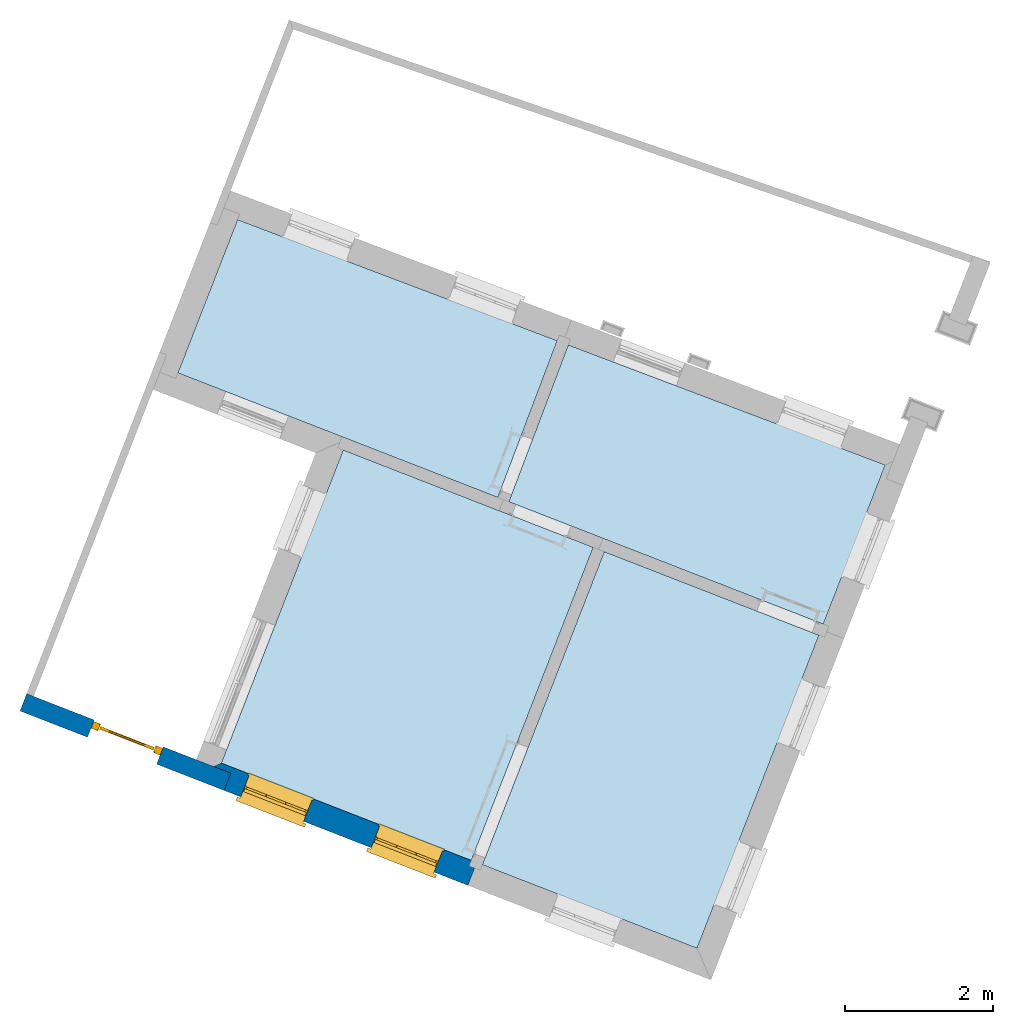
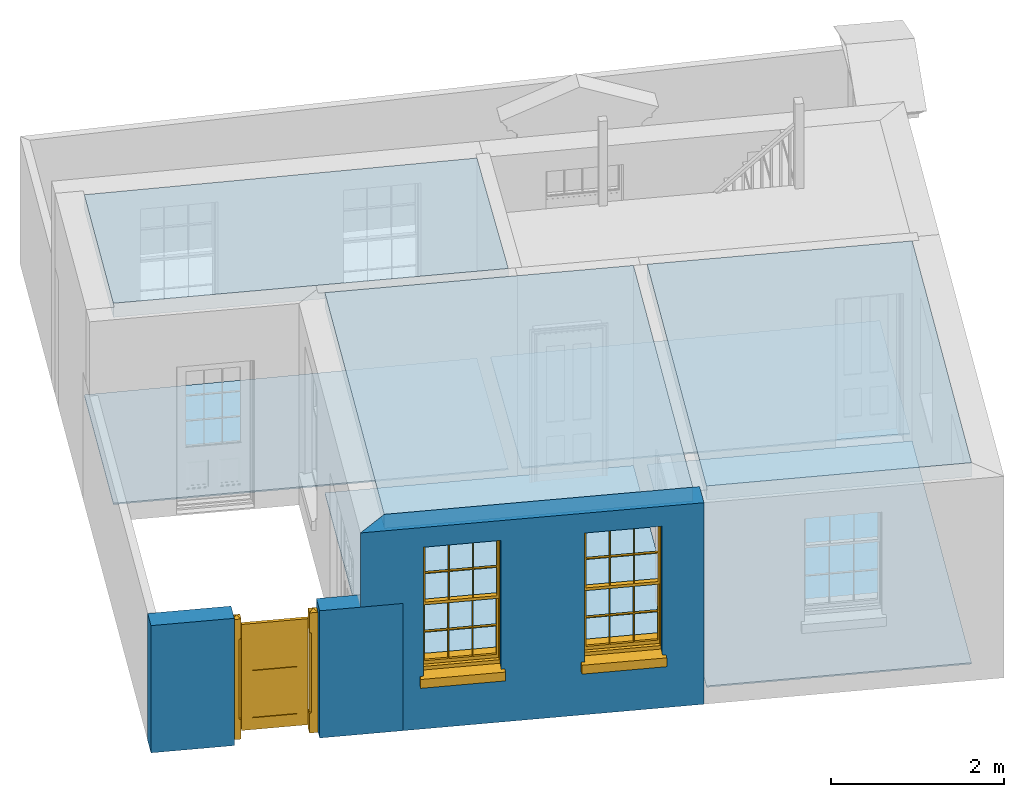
# One storey, part 1 of 10: 7 slabs, 2 walls, 2 windows, 1 door, 3 openings.
"""IFC4 building model written with IfcOpenShell, lengths in metres."""

from ifc_helpers import new_model, si_unit, frame, origin, origin_with_axes, place, context, subcontext, project, spatial, polyline, outline, extrude, faceted_brep, source, transform, mapped, material, layer, layer_set, layer_usage, type_object, type_shapes, element, fill, save


model = new_model("IFC4")

# Units and contexts
model_context = context("Model", 3, world=origin_with_axes())
body_context = subcontext(model_context, "Body", "Model", "MODEL_VIEW")
ifc_project = project(units=[si_unit("PLANEANGLEUNIT", "RADIAN"), si_unit("MASSUNIT", "GRAM", prefix="KILO"), si_unit("FORCEUNIT", "NEWTON", prefix="KILO"), si_unit("LENGTHUNIT", "METRE"), si_unit("AREAUNIT", "SQUARE_METRE"), si_unit("VOLUMEUNIT", "CUBIC_METRE")], contexts=[model_context, model_context])

# Sites, building, storey
site_1_placement = place(None, origin_with_axes())
site_1 = spatial("IfcSite", under=ifc_project, at=site_1_placement, Name="Tamar")
site_2_placement = place(site_1_placement, origin_with_axes())
site_2 = spatial("IfcSite", under=site_1, at=site_2_placement, Name="Site plot-8", CompositionType="ELEMENT")
building_placement = place(None, origin_with_axes())
building = spatial("IfcBuilding", under=site_2, at=building_placement, Name="Building plot-8", CompositionType="ELEMENT")
storey_placement = place(None, frame((0.0, 0.0, 26.0), z_axis=(0.0, 0.0, 1.0), x_axis=(1.0, 0.0, 0.0)))
storey = spatial("IfcBuildingStorey", under=building, at=storey_placement, Name="plot-8 0", CompositionType="ELEMENT", Elevation=26.0)

# Slabs
slab_1_placement = place(storey_placement, frame((222.381477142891, 304.99835360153, 2.65)))
element("IfcSlab", 1, at=slab_1_placement, inside=storey, Name="My Slab", ObjectType="Slab", PredefinedType="FLOOR", context=body_context, shape_type="SweptSolid", body=[
    extrude(outline(polyline([(0.0, 0.0), (3.37150952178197, -1.31265008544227), (5.01553914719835, 2.90999965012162), (1.64402962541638, 4.22264973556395), (0.0, 0.0)])), origin_with_axes(), (0.0, 0.0, 1.0), 0.2),
])
slab_2_placement = place(storey_placement, frame((222.381477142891, 304.99835360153, 0.0)))
element("IfcSlab", 2, at=slab_2_placement, inside=storey, Name="My Slab", ObjectType="Slab", PredefinedType="FLOOR", context=body_context, shape_type="SweptSolid", body=[
    extrude(outline(polyline([(0.0, 0.0), (3.37150952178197, -1.31265008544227), (5.01553914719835, 2.90999965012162), (1.64402962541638, 4.22264973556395), (0.0, 0.0)])), origin_with_axes(), (0.0, 0.0, 1.0), 0.02),
])
slab_3_placement = place(storey_placement, frame((221.795843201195, 310.260790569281, 2.65)))
element("IfcSlab", 3, at=slab_3_placement, inside=storey, Name="My Slab", ObjectType="Slab", PredefinedType="FLOOR", context=body_context, shape_type="SweptSolid", body=[
    extrude(outline(polyline([(0.0, 0.0), (4.31451663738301, -1.67979671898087), (5.11512416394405, 0.433972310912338), (0.804608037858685, 2.06661599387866), (0.0, 0.0)])), origin_with_axes(), (0.0, 0.0, 1.0), 0.2),
])
slab_4_placement = place(storey_placement, frame((221.795843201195, 310.260790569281, 0.0)))
element("IfcSlab", 4, at=slab_4_placement, inside=storey, Name="My Slab", ObjectType="Slab", PredefinedType="FLOOR", context=body_context, shape_type="SweptSolid", body=[
    extrude(outline(polyline([(0.0, 0.0), (4.31451663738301, -1.67979671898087), (5.11512416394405, 0.433972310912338), (0.804608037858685, 2.06661599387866), (0.0, 0.0)])), origin_with_axes(), (0.0, 0.0, 1.0), 0.02),
])
slab_5_placement = place(storey_placement, frame((226.259464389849, 308.522942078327, 0.0)))
element("IfcSlab", 5, at=slab_5_placement, inside=storey, Name="My Slab", ObjectType="Slab", PredefinedType="FLOOR", context=body_context, shape_type="SweptSolid", body=[
    extrude(outline(polyline([(0.0, 0.0), (4.23998719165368, -1.65077972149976), (5.07583281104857, 0.496069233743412), (0.801129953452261, 2.1151483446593), (0.0, 0.0)])), origin_with_axes(), (0.0, 0.0, 1.0), 0.02),
])
slab_6_placement = place(storey_placement, frame((225.902084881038, 303.627654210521, 2.65)))
element("IfcSlab", 6, at=slab_6_placement, inside=storey, Name="My Slab", ObjectType="Slab", PredefinedType="FLOOR", context=body_context, shape_type="SweptSolid", body=[
    extrude(outline(polyline([(0.0, 0.0), (2.89528776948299, -1.12723980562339), (4.53931739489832, 3.0954099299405), (1.64402962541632, 4.22264973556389), (0.0, 0.0)])), origin_with_axes(), (0.0, 0.0, 1.0), 0.2),
])
slab_7_placement = place(storey_placement, frame((225.902084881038, 303.627654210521, 0.0)))
element("IfcSlab", 7, at=slab_7_placement, inside=storey, Name="My Slab", ObjectType="Slab", PredefinedType="FLOOR", context=body_context, shape_type="SweptSolid", body=[
    extrude(outline(polyline([(0.0, 0.0), (2.89528776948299, -1.12723980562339), (4.53931739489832, 3.0954099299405), (1.64402962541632, 4.22264973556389), (0.0, 0.0)])), origin_with_axes(), (0.0, 0.0, 1.0), 0.02),
])

# Wall, openings, windows
ifc_material_1 = material(Name="Masonry")
ifc_layer_1 = layer(ifc_material_1, 0.33, ventilated=False)
ifc_layer_set_1 = layer_set([ifc_layer_1], Name="exterior_0.08_0.25")
ifc_layer_usage_1 = layer_usage(ifc_layer_set_1, "AXIS2", "POSITIVE", -0.25)
wall_type_1 = type_object("IfcWallType", Name="exterior_0.08_0.25", PredefinedType="SOLIDWALL", material=ifc_layer_set_1)
wall_1_placement = place(storey_placement, frame((222.277903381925, 304.952829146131, 0.0), z_axis=(0.0, 0.0, 1.0), x_axis=(0.931863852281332, -0.36280815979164, 0.0)))
wall_1 = element("IfcWall", 8, at=wall_1_placement, inside=storey, type_object=wall_type_1, material=ifc_layer_usage_1, Name="exterior", context=body_context, shape_type="SweptSolid", body=[
    extrude(outline(polyline([(0.0800000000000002, 0.0799999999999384), (-0.249999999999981, -0.250000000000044), (3.77802801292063, -0.250000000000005), (3.77802801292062, 0.0800000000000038), (0.0800000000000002, 0.0799999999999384)])), origin_with_axes(), (0.0, 0.0, 1.0), 2.85),
])
opening_1_placement = place(wall_1_placement, frame((0.489507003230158, 0.0, 0.75)))
opening_1 = element("IfcOpeningElement", 9, at=opening_1_placement, cuts=wall_1, Name="My Opening", ObjectType="Opening", context=body_context, shape_type="SweptSolid", body=[
    extrude(outline(polyline([(0.0, -0.270000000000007), (0.910000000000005, -0.270000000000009), (0.90999999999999, 1.09999999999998), (-1.51545442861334e-14, 1.09999999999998), (0.0, -0.270000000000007)])), origin_with_axes(), (0.0, 0.0, 1.0), 1.82),
])
opening_2_placement = place(wall_1_placement, frame((2.37852100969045, 0.0, 0.75)))
opening_2 = element("IfcOpeningElement", 10, at=opening_2_placement, cuts=wall_1, Name="My Opening", ObjectType="Opening", context=body_context, shape_type="SweptSolid", body=[
    extrude(outline(polyline([(0.0, -0.270000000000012), (0.910000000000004, -0.270000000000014), (0.909999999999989, 1.09999999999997), (-1.55431223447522e-14, 1.09999999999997), (0.0, -0.270000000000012)])), origin_with_axes(), (0.0, 0.0, 1.0), 1.82),
])
window_type = type_object("IfcWindowType", Name="sash_big", PartitioningType="DOUBLE_PANEL_HORIZONTAL", PredefinedType="NOTDEFINED")
shared_shape_1 = source(origin(), body_context, "Body", "Brep", [
    faceted_brep([(0.033125, 0.145, 0.975209), (0.01, 0.145, 0.975209), (0.033125, 0.145, 1.376042), (0.876875, 0.145, 0.975209), (0.876875, 0.145, 1.376042), (0.9, 0.145, 0.975209), (0.876875, 0.145, 1.386042), (0.876875, 0.145, 1.786875), (0.9, 0.145, 1.81), (0.033125, 0.145, 1.786875), (0.033125, 0.145, 1.386042), (0.01, 0.145, 1.81), (0.876875, 0.115, 1.376042), (0.876875, 0.115, 0.975209), (0.9, 0.115, 0.937083), (0.033125, 0.115, 1.786875), (0.01, 0.115, 1.81), (0.033125, 0.115, 1.386042), (0.01, 0.115, 0.937083), (0.033125, 0.115, 0.975209), (0.033125, 0.115, 1.376042), (0.876875, 0.115, 1.786875), (0.876875, 0.115, 1.386042), (0.9, 0.115, 1.81), (0.033125, 0.145, 0.937083), (0.01, 0.145, 0.937083), (0.033125, 0.145, 0.53625), (0.876875, 0.145, 0.937083), (0.876875, 0.145, 0.53625), (0.9, 0.145, 0.937083), (0.876875, 0.145, 0.52625), (0.876875, 0.145, 0.125417), (0.9, 0.145, 0.077167), (0.033125, 0.145, 0.125417), (0.033125, 0.145, 0.52625), (0.01, 0.145, 0.077167), (-0.0425, 0.0, 0.01), (-0.0425, -0.05, 0.001667), (0.0, 0.0, 0.01), (0.9525, 0.0, 0.01), (0.91, 0.0, 0.01), (0.9525, -0.05, 0.001667), (-0.02, 0.33, 0.077167), (0.0, 0.33, 0.077167), (-0.02, 0.36, 0.077167), (0.0, 0.19, 0.077167), (0.01, 0.19, 0.077167), (0.91, 0.19, 0.077167), (0.91, 0.33, 0.077167), (0.9, 0.19, 0.077167), (0.93, 0.33, 0.077167), (0.93, 0.36, 0.077167), (0.01, 0.175, 0.975209), (0.9, 0.175, 0.975209), (0.876875, 0.175, 0.125417), (0.876875, 0.175, 0.52625), (0.9, 0.175, 0.077167), (0.876875, 0.175, 0.53625), (0.876875, 0.175, 0.937083), (0.033125, 0.175, 0.125417), (0.01, 0.175, 0.077167), (0.033125, 0.175, 0.52625), (0.033125, 0.175, 0.937083), (0.033125, 0.175, 0.53625), (-0.02, 0.33, 0.052167), (-0.02, 0.36, 0.052167), (0.93, 0.36, 0.052167), (0.93, 0.33, 0.052167), (0.91, 0.33, 0.052167), (0.0, 0.33, 0.052167), (0.91, 0.1, 0.026667), (0.0, 0.1, 0.026667), (-0.0425, -0.05, -0.123333), (0.9525, -0.05, -0.123333), (-0.0425, 0.0, -0.123333), (0.9525, 0.0, -0.123333), (0.01, 0.19, 1.81), (0.9, 0.19, 1.81), (0.0, 0.19, 1.82), (0.91, 0.19, 1.82), (0.01, 0.1, 0.077167), (0.9, 0.1, 0.077167), (0.592292, 0.145, 0.125417), (0.592292, 0.175, 0.125417), (0.317708, 0.175, 0.125417), (0.317708, 0.145, 0.125417), (0.592292, 0.145, 0.53625), (0.317708, 0.145, 0.53625), (0.317708, 0.145, 0.52625), (0.592292, 0.145, 0.52625), (0.592292, 0.175, 0.53625), (0.317708, 0.175, 0.53625), (0.592292, 0.115, 1.386042), (0.592292, 0.145, 1.386042), (0.317708, 0.145, 1.386042), (0.317708, 0.115, 1.386042), (0.317708, 0.115, 1.376042), (0.592292, 0.115, 1.376042), (0.317708, 0.145, 1.376042), (0.592292, 0.145, 1.376042), (0.602292, 0.115, 1.376042), (0.592292, 0.115, 0.975209), (0.602292, 0.115, 0.975209), (0.602292, 0.145, 0.975209), (0.592292, 0.145, 0.975209), (0.602292, 0.145, 1.376042), (0.602292, 0.175, 0.53625), (0.602292, 0.145, 0.53625), (0.317708, 0.175, 0.52625), (0.307708, 0.175, 0.125417), (0.307708, 0.175, 0.52625), (0.602292, 0.175, 0.52625), (0.602292, 0.175, 0.125417), (0.592292, 0.175, 0.52625), (0.307708, 0.175, 0.53625), (0.317708, 0.175, 0.937083), (0.307708, 0.175, 0.937083), (0.602292, 0.175, 0.937083), (0.592292, 0.175, 0.937083), (0.307708, 0.145, 0.52625), (0.307708, 0.145, 0.125417), (0.307708, 0.145, 0.53625), (0.307708, 0.145, 0.937083), (0.592292, 0.145, 0.937083), (0.317708, 0.145, 0.937083), (0.602292, 0.145, 0.937083), (0.602292, 0.145, 0.52625), (0.602292, 0.145, 0.125417), (0.307708, 0.115, 1.386042), (0.307708, 0.115, 1.376042), (0.307708, 0.115, 0.975209), (0.317708, 0.115, 0.975209), (0.317708, 0.115, 1.786875), (0.307708, 0.115, 1.786875), (0.602292, 0.115, 1.786875), (0.592292, 0.115, 1.786875), (0.602292, 0.115, 1.386042), (0.602292, 0.145, 1.386042), (0.307708, 0.145, 1.386042), (0.307708, 0.145, 1.786875), (0.317708, 0.145, 1.786875), (0.592292, 0.145, 1.786875), (0.602292, 0.145, 1.786875), (0.307708, 0.145, 1.376042), (0.317708, 0.145, 0.975209), (0.307708, 0.145, 0.975209), (0.91, 0.1, 1.82), (0.9, 0.1, 1.81), (0.01, 0.1, 1.81), (0.0, 0.1, 1.82), (0.91, 0.0, 0.0), (0.0, 0.0, 0.0), (0.91, 0.33, 0.0), (0.0, 0.33, 0.0)], [[[0, 1, 2]], [[3, 4, 5]], [[6, 7, 8]], [[9, 10, 11]], [[12, 13, 14]], [[15, 16, 17]], [[18, 19, 20]], [[21, 22, 23]], [[24, 25, 26]], [[27, 28, 29]], [[30, 31, 32]], [[33, 34, 35]], [[14, 27, 29]], [[25, 24, 18]], [[36, 37, 38]], [[39, 40, 41]], [[42, 43, 44]], [[45, 46, 43]], [[47, 48, 49]], [[50, 51, 48]], [[1, 0, 52]], [[5, 53, 3]], [[54, 55, 56]], [[57, 58, 53]], [[59, 60, 61]], [[62, 63, 52]], [[48, 43, 46, 49]], [[51, 44, 43, 48]], [[64, 42, 44, 65]], [[65, 44, 51, 66]], [[66, 51, 50, 67]], [[65, 66, 68, 69]], [[60, 56, 49, 46]], [[70, 71, 38, 40]], [[37, 41, 40, 38]], [[37, 72, 73, 41]], [[74, 75, 73, 72]], [[8, 11, 76, 77]], [[76, 78, 79, 77]], [[32, 35, 80, 81]], [[81, 80, 71, 70]], [[82, 83, 84, 85]], [[86, 87, 88, 89]], [[86, 90, 91, 87]], [[92, 93, 94, 95]], [[92, 95, 96, 97]], [[96, 98, 99, 97]], [[100, 97, 101, 102]], [[103, 104, 99, 105]], [[97, 99, 104, 101]], [[102, 103, 105, 100]], [[28, 57, 106, 107]], [[108, 84, 109, 110]], [[111, 112, 83, 113]], [[114, 110, 61, 63]], [[90, 113, 108, 91]], [[115, 91, 114, 116]], [[117, 106, 90, 118]], [[111, 106, 57, 55]], [[119, 110, 109, 120]], [[34, 61, 110, 119]], [[89, 113, 83, 82]], [[88, 108, 113, 89]], [[85, 84, 108, 88]], [[121, 114, 63, 26]], [[122, 116, 114, 121]], [[123, 118, 90, 86]], [[87, 91, 115, 124]], [[107, 106, 117, 125]], [[126, 111, 55, 30]], [[127, 112, 111, 126]], [[126, 30, 28, 107]], [[88, 119, 120, 85]], [[126, 89, 82, 127]], [[125, 123, 86, 107]], [[121, 26, 34, 119]], [[124, 122, 121, 87]], [[128, 17, 20, 129]], [[96, 129, 130, 131]], [[132, 133, 128, 95]], [[134, 135, 92, 136]], [[100, 12, 22, 136]], [[137, 6, 4, 105]], [[94, 138, 139, 140]], [[137, 93, 141, 142]], [[99, 98, 94, 93]], [[143, 2, 10, 138]], [[144, 145, 143, 98]], [[129, 143, 145, 130]], [[20, 2, 143, 129]], [[131, 144, 98, 96]], [[128, 138, 10, 17]], [[133, 139, 138, 128]], [[135, 141, 93, 92]], [[95, 94, 140, 132]], [[22, 6, 137, 136]], [[136, 137, 142, 134]], [[100, 105, 4, 12]], [[107, 86, 89, 126]], [[106, 111, 113, 90]], [[91, 108, 110, 114]], [[87, 121, 119, 88]], [[97, 100, 136, 92]], [[129, 96, 95, 128]], [[98, 143, 138, 94]], [[105, 99, 93, 137]], [[131, 101, 104, 144]], [[124, 115, 118, 123]], [[132, 140, 141, 135]], [[120, 109, 59, 33]], [[15, 9, 139, 133]], [[134, 142, 7, 21]], [[31, 54, 112, 127]], [[36, 74, 72, 37]], [[39, 41, 73, 75]], [[18, 14, 101, 131]], [[23, 16, 132, 135]], [[83, 56, 60, 84]], [[52, 53, 118, 115]], [[53, 52, 144, 104]], [[11, 8, 141, 140]], [[14, 18, 124, 123]], [[2, 1, 11, 10]], [[8, 5, 4, 6]], [[57, 53, 56, 55]], [[60, 52, 63, 61]], [[26, 25, 35, 34]], [[32, 29, 28, 30]], [[14, 23, 22, 12]], [[18, 20, 17, 16]], [[19, 0, 2, 20]], [[17, 10, 9, 15]], [[12, 4, 3, 13]], [[21, 7, 6, 22]], [[27, 58, 57, 28]], [[30, 55, 54, 31]], [[33, 59, 61, 34]], [[26, 63, 62, 24]], [[5, 8, 77, 53]], [[76, 11, 1, 52]], [[46, 45, 78, 76]], [[49, 77, 79, 47]], [[70, 146, 147, 81]], [[71, 80, 148, 149]], [[19, 130, 145, 0]], [[102, 13, 3, 103]], [[116, 122, 24, 62]], [[29, 32, 81, 14]], [[80, 35, 25, 18]], [[60, 46, 76, 52]], [[77, 49, 56, 53]], [[23, 14, 81, 147]], [[16, 148, 80, 18]], [[35, 85, 120]], [[120, 33, 35]], [[127, 82, 32]], [[32, 31, 127]], [[32, 82, 85, 35]], [[102, 101, 14]], [[14, 13, 102]], [[18, 131, 130]], [[130, 19, 18]], [[134, 21, 23]], [[23, 135, 134]], [[16, 15, 133]], [[133, 132, 16]], [[11, 140, 139]], [[139, 9, 11]], [[142, 141, 8]], [[8, 7, 142]], [[23, 147, 148, 16]], [[146, 149, 148, 147]], [[52, 115, 116]], [[116, 62, 52]], [[118, 53, 117]], [[58, 117, 53]], [[27, 125, 117, 58]], [[56, 83, 112]], [[112, 54, 56]], [[109, 84, 60]], [[60, 59, 109]], [[125, 27, 14]], [[14, 123, 125]], [[122, 124, 18]], [[18, 24, 122]], [[145, 144, 52]], [[52, 0, 145]], [[103, 3, 53]], [[53, 104, 103]], [[79, 78, 149, 146]], [[78, 45, 71, 149]], [[146, 70, 47, 79]], [[150, 75, 74, 151]], [[68, 66, 67]], [[48, 68, 67, 50]], [[69, 64, 65]], [[42, 64, 69, 43]], [[69, 68, 152, 153]], [[70, 68, 48, 47]], [[150, 152, 68, 70]], [[43, 69, 71, 45]], [[69, 153, 151, 71]], [[152, 150, 151, 153]], [[38, 151, 74, 36]], [[71, 151, 38]], [[39, 75, 150, 40]], [[40, 150, 70]]]),
])
type_shapes(window_type, [shared_shape_1])
window_1_placement = place(storey_placement, frame((222.63609906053, 304.523628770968, 0.75), z_axis=(0.0, 0.0, 1.0), x_axis=(0.847996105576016, -0.330155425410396, 0.0)))
window_1 = element("IfcWindow", 11, at=window_1_placement, inside=storey, type_object=window_type, Name="living street window", OverallHeight=1.82, OverallWidth=0.91, context=body_context, shape_type="MappedRepresentation", body=[
    mapped(shared_shape_1, transform((0.0, 0.0, 0.0), scale=1.0)),
])
fill(opening_1, window_1)
window_2_placement = place(storey_placement, frame((224.396402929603, 303.838279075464, 0.75), z_axis=(0.0, 0.0, 1.0), x_axis=(0.847996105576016, -0.330155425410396, 0.0)))
window_2 = element("IfcWindow", 12, at=window_2_placement, inside=storey, type_object=window_type, Name="living street window", OverallHeight=1.82, OverallWidth=0.91, context=body_context, shape_type="MappedRepresentation", body=[
    mapped(shared_shape_1, transform((0.0, 0.0, 0.0), scale=1.0)),
])
fill(opening_2, window_2)

# Wall, opening, door
ifc_material_2 = material(Name="Masonry")
ifc_layer_2 = layer(ifc_material_2, 0.25, ventilated=False)
ifc_layer_set_2 = layer_set([ifc_layer_2], Name="fence_0_0.25")
ifc_layer_usage_2 = layer_usage(ifc_layer_set_2, "AXIS2", "POSITIVE", -0.25)
wall_type_2 = type_object("IfcWallType", Name="fence_0_0.25", PredefinedType="SOLIDWALL", material=ifc_layer_set_2)
wall_2_placement = place(storey_placement, frame((219.990190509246, 305.843518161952, 0.0), z_axis=(0.0, 0.0, 1.0), x_axis=(0.931863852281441, -0.362808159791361, 0.0)))
wall_2 = element("IfcWall", 13, at=wall_2_placement, inside=storey, type_object=wall_type_2, material=ifc_layer_usage_2, Name="fence", context=body_context, shape_type="SweptSolid", body=[
    extrude(outline(polyline([(-0.25, -2.78359817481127e-14), (-0.250000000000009, -0.250000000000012), (2.70498617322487, -0.249999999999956), (2.70498617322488, 2.79291827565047e-14), (-0.25, -2.78359817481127e-14)])), origin_with_axes(), (0.0, 0.0, 1.0), 1.8),
])
opening_3_placement = place(wall_2_placement, frame((0.727493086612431, 0.0, -0.0100000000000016)))
opening_3 = element("IfcOpeningElement", 14, at=opening_3_placement, cuts=wall_2, Name="My Opening", ObjectType="Opening", context=body_context, shape_type="SweptSolid", body=[
    extrude(outline(polyline([(0.0, -0.269999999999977), (1.00000000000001, -0.269999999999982), (1.00000000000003, 1.01999999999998), (1.08801856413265e-14, 1.01999999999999), (0.0, -0.269999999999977)])), origin_with_axes(), (0.0, 0.0, 1.0), 1.81),
])
door_type = type_object("IfcDoorType", Name="gate-small", OperationType="SINGLE_SWING_LEFT", PredefinedType="NOTDEFINED")
shared_shape_2 = source(origin(), body_context, "Body", "Brep", [
    faceted_brep([(0.9, 0.25, 1.7), (0.9, 0.15, 1.7), (0.95, 0.2, 1.73), (1.0, 0.15, 1.433333), (1.0, 0.15, 1.7), (0.9, 0.15, 1.433333), (0.9, 0.25, 1.433333), (0.9, 0.25, 0.0), (1.0, 0.25, 0.0), (1.0, 0.15, 0.0), (0.9, 0.15, 0.0), (1.0, 0.25, 1.433333), (1.0, 0.25, 1.7), (0.9, 0.25, 0.266667), (1.0, 0.25, 0.266667), (1.0, 0.25, 0.291667), (0.925, 0.25, 0.291667), (0.925, 0.25, 1.408333), (1.0, 0.25, 1.408333), (1.0, 0.15, 0.266667), (1.0, 0.15, 0.291667), (1.0, 0.15, 1.408333), (0.9, 0.15, 0.266667), (0.9, 0.175, 0.291667), (0.9, 0.225, 0.291667), (0.925, 0.15, 0.291667), (0.9, 0.175, 1.408333), (0.925, 0.15, 1.408333), (0.9, 0.225, 1.408333), (0.0, 0.25, 1.7), (0.0, 0.15, 1.7), (0.05, 0.2, 1.73), (0.0, 0.25, 1.433333), (0.1, 0.25, 1.7), (0.1, 0.25, 1.433333), (0.1, 0.15, 1.7), (0.1, 0.15, 1.433333), (0.1, 0.15, 0.0), (0.0, 0.15, 0.0), (0.0, 0.25, 0.0), (0.1, 0.25, 0.0), (0.0, 0.15, 1.433333), (0.1, 0.15, 0.266667), (0.0, 0.15, 0.266667), (0.0, 0.15, 0.291667), (0.075, 0.15, 0.291667), (0.075, 0.15, 1.408333), (0.0, 0.15, 1.408333), (0.0, 0.25, 0.266667), (0.0, 0.25, 0.291667), (0.0, 0.25, 1.408333), (0.1, 0.25, 0.266667), (0.1, 0.225, 0.291667), (0.1, 0.175, 0.291667), (0.075, 0.25, 0.291667), (0.1, 0.225, 1.408333), (0.075, 0.25, 1.408333), (0.1, 0.175, 1.408333), (0.11, 0.18, 1.433333), (0.11, 0.18, 1.6), (0.11, 0.22, 1.6), (0.11, 0.22, 1.433333), (0.76, 0.22, 1.433333), (0.76, 0.22, 1.6), (0.89, 0.22, 1.6), (0.89, 0.22, 1.433333), (0.89, 0.18, 1.6), (0.89, 0.18, 1.433333), (0.24, 0.18, 1.433333), (0.24, 0.18, 1.6), (0.76, 0.22, 0.1), (0.89, 0.22, 0.1), (0.89, 0.18, 0.1), (0.76, 0.18, 0.1), (0.24, 0.22, 1.6), (0.76, 0.18, 1.6), (0.11, 0.22, 0.1), (0.24, 0.22, 0.1), (0.24, 0.18, 0.1), (0.11, 0.18, 0.1), (0.76, 0.18, 1.433333), (0.24, 0.22, 1.433333), (0.76, 0.18, 0.266667), (0.24, 0.18, 0.266667), (0.24, 0.22, 0.933333), (0.11, 0.22, 0.933333), (0.76, 0.18, 0.933333), (0.24, 0.18, 0.933333), (0.24, 0.18, 0.766667), (0.76, 0.18, 0.766667), (0.11, 0.22, 0.766667), (0.24, 0.22, 0.766667), (0.24, 0.22, 0.266667), (0.11, 0.22, 0.266667), (0.76, 0.22, 0.766667), (0.76, 0.21, 0.766667), (0.24, 0.21, 0.766667), (0.76, 0.22, 0.933333), (0.76, 0.21, 0.933333), (0.76, 0.21, 1.433333), (0.76, 0.22, 0.266667), (0.89, 0.18, 0.766667), (0.89, 0.18, 0.266667), (0.89, 0.18, 0.933333), (0.11, 0.18, 0.766667), (0.11, 0.18, 0.266667), (0.11, 0.18, 0.933333), (0.89, 0.22, 0.766667), (0.89, 0.22, 0.266667), (0.89, 0.22, 0.933333), (0.76, 0.19, 0.266667), (0.24, 0.19, 0.266667), (0.76, 0.19, 0.933333), (0.24, 0.19, 0.933333), (0.24, 0.19, 1.433333), (0.76, 0.19, 1.433333), (0.24, 0.19, 0.766667), (0.76, 0.19, 0.766667), (0.24, 0.21, 1.433333), (0.24, 0.21, 0.933333), (0.76, 0.21, 0.266667), (0.24, 0.21, 0.266667)], [[[0, 1, 2]], [[3, 4, 1]], [[3, 1, 5]], [[5, 1, 0]], [[5, 0, 6]], [[7, 8, 9]], [[7, 9, 10]], [[11, 12, 4]], [[11, 4, 3]], [[6, 0, 12]], [[6, 12, 11]], [[7, 13, 14]], [[7, 14, 8]], [[15, 14, 13]], [[15, 13, 16]], [[17, 18, 15]], [[17, 15, 16]], [[17, 6, 11]], [[17, 11, 18]], [[8, 14, 19]], [[8, 19, 9]], [[14, 15, 20]], [[14, 20, 19]], [[15, 18, 21]], [[15, 21, 20]], [[18, 11, 3]], [[18, 3, 21]], [[10, 22, 13]], [[10, 13, 7]], [[23, 24, 13]], [[23, 13, 22]], [[25, 23, 22]], [[5, 26, 27]], [[9, 19, 22]], [[9, 22, 10]], [[19, 20, 25]], [[19, 25, 22]], [[28, 17, 16]], [[28, 16, 24]], [[21, 3, 5]], [[21, 5, 27]], [[21, 27, 25]], [[21, 25, 20]], [[25, 27, 26]], [[25, 26, 23]], [[16, 13, 24]], [[26, 28, 24]], [[26, 24, 23]], [[28, 26, 5]], [[28, 5, 6]], [[17, 28, 6]], [[29, 30, 31]], [[32, 29, 33]], [[32, 33, 34]], [[34, 33, 35]], [[34, 35, 36]], [[37, 38, 39]], [[37, 39, 40]], [[41, 30, 29]], [[41, 29, 32]], [[36, 35, 30]], [[36, 30, 41]], [[37, 42, 43]], [[37, 43, 38]], [[44, 43, 42]], [[44, 42, 45]], [[46, 47, 44]], [[46, 44, 45]], [[46, 36, 41]], [[46, 41, 47]], [[38, 43, 48]], [[38, 48, 39]], [[43, 44, 49]], [[43, 49, 48]], [[44, 47, 50]], [[44, 50, 49]], [[47, 41, 32]], [[47, 32, 50]], [[40, 51, 42]], [[40, 42, 37]], [[52, 53, 42]], [[52, 42, 51]], [[54, 52, 51]], [[34, 55, 56]], [[39, 48, 51]], [[39, 51, 40]], [[48, 49, 54]], [[48, 54, 51]], [[57, 46, 45]], [[57, 45, 53]], [[50, 32, 34]], [[50, 34, 56]], [[50, 56, 54]], [[50, 54, 49]], [[54, 56, 55]], [[54, 55, 52]], [[45, 42, 53]], [[55, 57, 53]], [[55, 53, 52]], [[57, 55, 34]], [[57, 34, 36]], [[46, 57, 36]], [[33, 29, 31]], [[35, 33, 31]], [[35, 31, 30]], [[12, 0, 2]], [[4, 12, 2]], [[4, 2, 1]], [[58, 59, 60]], [[58, 60, 61]], [[62, 63, 64]], [[62, 64, 65]], [[65, 64, 66]], [[65, 66, 67]], [[68, 69, 59]], [[68, 59, 58]], [[70, 71, 72]], [[70, 72, 73]], [[74, 60, 59]], [[74, 59, 69]], [[64, 63, 75]], [[64, 75, 66]], [[74, 69, 75]], [[74, 75, 63]], [[76, 77, 78]], [[76, 78, 79]], [[77, 70, 73]], [[77, 73, 78]], [[67, 66, 75]], [[67, 75, 80]], [[81, 74, 63]], [[81, 63, 62]], [[61, 60, 74]], [[61, 74, 81]], [[82, 83, 78]], [[82, 78, 73]], [[75, 69, 68]], [[75, 68, 80]], [[61, 81, 84]], [[61, 84, 85]], [[86, 87, 88]], [[86, 88, 89]], [[90, 91, 92]], [[90, 92, 93]], [[76, 93, 92]], [[76, 92, 77]], [[91, 94, 95]], [[91, 95, 96]], [[90, 85, 84]], [[90, 84, 91]], [[62, 97, 98]], [[62, 98, 99]], [[77, 92, 100]], [[77, 100, 70]], [[101, 89, 82]], [[101, 82, 102]], [[91, 84, 97]], [[91, 97, 94]], [[67, 80, 86]], [[67, 86, 103]], [[72, 102, 82]], [[72, 82, 73]], [[88, 104, 105]], [[88, 105, 83]], [[101, 103, 86]], [[101, 86, 89]], [[68, 58, 106]], [[68, 106, 87]], [[78, 83, 105]], [[78, 105, 79]], [[107, 101, 102]], [[107, 102, 108]], [[88, 87, 106]], [[88, 106, 104]], [[65, 67, 103]], [[65, 103, 109]], [[71, 108, 102]], [[71, 102, 72]], [[94, 107, 108]], [[94, 108, 100]], [[107, 109, 103]], [[107, 103, 101]], [[62, 65, 109]], [[62, 109, 97]], [[70, 100, 108]], [[70, 108, 71]], [[105, 104, 90]], [[105, 90, 93]], [[94, 97, 109]], [[94, 109, 107]], [[106, 58, 61]], [[106, 61, 85]], [[79, 105, 93]], [[79, 93, 76]], [[83, 82, 110]], [[83, 110, 111]], [[104, 106, 85]], [[104, 85, 90]], [[87, 86, 112]], [[87, 112, 113]], [[114, 113, 112]], [[114, 112, 115]], [[68, 87, 113]], [[68, 113, 114]], [[80, 68, 114]], [[80, 114, 115]], [[86, 80, 115]], [[86, 115, 112]], [[116, 111, 110]], [[116, 110, 117]], [[88, 83, 111]], [[88, 111, 116]], [[89, 88, 116]], [[89, 116, 117]], [[82, 89, 117]], [[82, 117, 110]], [[118, 99, 98]], [[118, 98, 119]], [[84, 81, 118]], [[84, 118, 119]], [[81, 62, 99]], [[81, 99, 118]], [[97, 84, 119]], [[97, 119, 98]], [[96, 95, 120]], [[96, 120, 121]], [[94, 100, 120]], [[94, 120, 95]], [[100, 92, 121]], [[100, 121, 120]], [[92, 91, 96]], [[92, 96, 121]]]),
])
type_shapes(door_type, [shared_shape_2])
door_placement = place(storey_placement, frame((220.570156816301, 305.327974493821, -0.0100000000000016), z_axis=(0.0, 0.0, 1.0), x_axis=(0.931863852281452, -0.362808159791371, 0.0)))
door = element("IfcDoor", 15, at=door_placement, inside=storey, type_object=door_type, Name="gate", OverallHeight=1.81, OverallWidth=1.0, context=body_context, shape_type="MappedRepresentation", body=[
    mapped(shared_shape_2, transform((0.0, 0.0, 0.0), scale=1.0)),
])
fill(opening_3, door)

save(model, "model.ifc")
